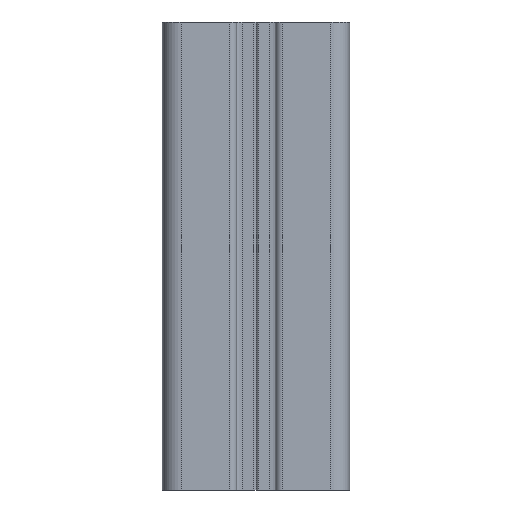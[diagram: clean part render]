
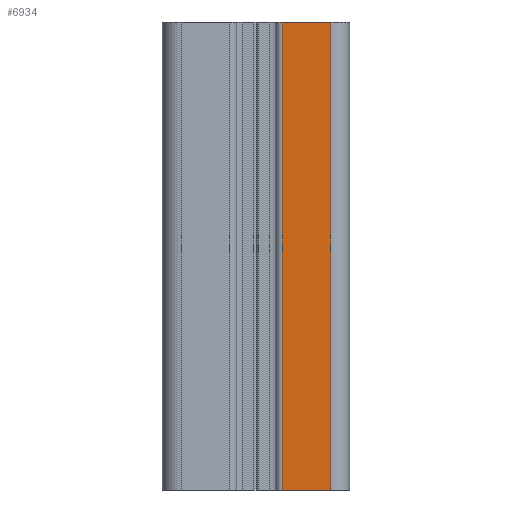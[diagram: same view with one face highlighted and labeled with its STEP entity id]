
A CAD part, front view. The second image highlights one B-rep face of the part: STEP entity #6934.
In plain terms, the highlighted planar face has unit normal (0, -1, 0).
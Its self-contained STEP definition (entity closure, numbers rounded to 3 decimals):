
#79 = ORIENTED_EDGE ( 'NONE', *, *, #943, .F. ) ;
#86 = CARTESIAN_POINT ( 'NONE',  ( 16., -20., -100. ) ) ;
#147 = ORIENTED_EDGE ( 'NONE', *, *, #4689, .F. ) ;
#150 = CARTESIAN_POINT ( 'NONE',  ( 5.65, -20., -100. ) ) ;
#310 = CARTESIAN_POINT ( 'NONE',  ( 16., -20., -100. ) ) ;
#732 = DIRECTION ( 'NONE',  ( 1., 0., 0. ) ) ;
#836 = VERTEX_POINT ( 'NONE', #6469 ) ;
#943 = EDGE_CURVE ( 'NONE', #4305, #3117, #7769, .T. ) ;
#954 = DIRECTION ( 'NONE',  ( 0., 0., -1. ) ) ;
#964 = CARTESIAN_POINT ( 'NONE',  ( 5.65, -20., -100. ) ) ;
#1088 = AXIS2_PLACEMENT_3D ( 'NONE', #310, #4753, #954 ) ;
#1148 = VERTEX_POINT ( 'NONE', #3214 ) ;
#1190 = DIRECTION ( 'NONE',  ( 0., 0., 1. ) ) ;
#1410 = VECTOR ( 'NONE', #732, 1000. ) ;
#1560 = PLANE ( 'NONE',  #1088 ) ;
#1681 = FACE_OUTER_BOUND ( 'NONE', #1956, .T. ) ;
#1956 = EDGE_LOOP ( 'NONE', ( #147, #79, #2562, #2652 ) ) ;
#2562 = ORIENTED_EDGE ( 'NONE', *, *, #7857, .T. ) ;
#2652 = ORIENTED_EDGE ( 'NONE', *, *, #3330, .T. ) ;
#3117 = VERTEX_POINT ( 'NONE', #3232 ) ;
#3214 = CARTESIAN_POINT ( 'NONE',  ( 16., -20., -100. ) ) ;
#3232 = CARTESIAN_POINT ( 'NONE',  ( 5.65, -20., 0. ) ) ;
#3330 = EDGE_CURVE ( 'NONE', #1148, #836, #4599, .T. ) ;
#3638 = VECTOR ( 'NONE', #4628, 1000. ) ;
#4305 = VERTEX_POINT ( 'NONE', #150 ) ;
#4599 = LINE ( 'NONE', #7408, #7824 ) ;
#4628 = DIRECTION ( 'NONE',  ( 1., 0., 0. ) ) ;
#4689 = EDGE_CURVE ( 'NONE', #3117, #836, #6867, .T. ) ;
#4753 = DIRECTION ( 'NONE',  ( 0., -1., 0. ) ) ;
#4760 = DIRECTION ( 'NONE',  ( 0., 0., 1. ) ) ;
#6148 = VECTOR ( 'NONE', #4760, 1000. ) ;
#6386 = LINE ( 'NONE', #86, #1410 ) ;
#6416 = CARTESIAN_POINT ( 'NONE',  ( 16., -20., 0. ) ) ;
#6469 = CARTESIAN_POINT ( 'NONE',  ( 16., -20., 0. ) ) ;
#6867 = LINE ( 'NONE', #6416, #3638 ) ;
#6934 = ADVANCED_FACE ( 'NONE', ( #1681 ), #1560, .T. ) ;
#7408 = CARTESIAN_POINT ( 'NONE',  ( 16., -20., -100. ) ) ;
#7769 = LINE ( 'NONE', #964, #6148 ) ;
#7824 = VECTOR ( 'NONE', #1190, 1000. ) ;
#7857 = EDGE_CURVE ( 'NONE', #4305, #1148, #6386, .T. ) ;
